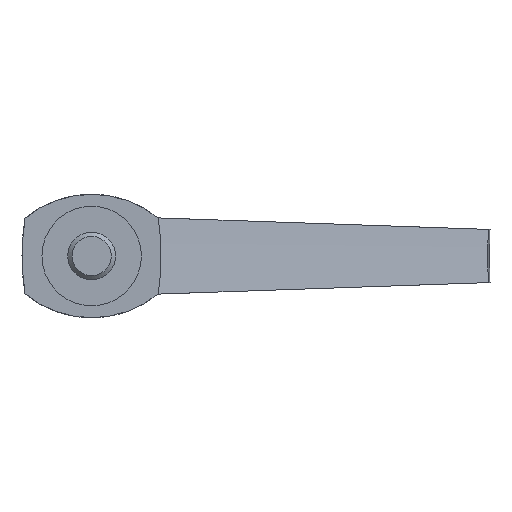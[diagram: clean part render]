
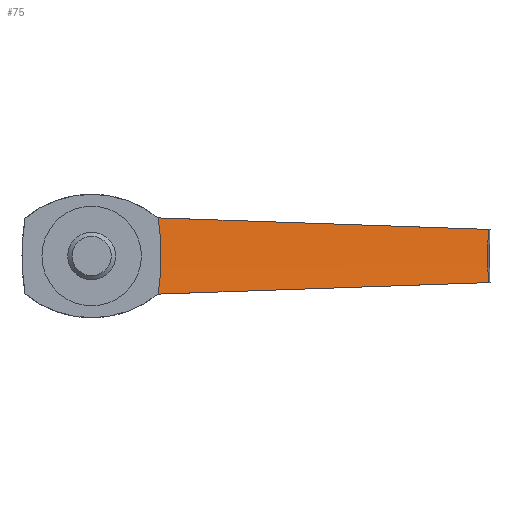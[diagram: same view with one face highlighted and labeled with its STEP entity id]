
A CAD part, front view. The second image highlights one B-rep face of the part: STEP entity #75.
In plain terms, the highlighted conical face has half-angle 70 degrees and reference radius 290 mm.
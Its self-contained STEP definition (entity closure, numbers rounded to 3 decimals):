
#75 = ADVANCED_FACE( '', ( #100 ), #101, .F. );
#100 = FACE_OUTER_BOUND( '', #156, .T. );
#101 = CONICAL_SURFACE( '', #157, 290., 1.222 );
#156 = EDGE_LOOP( '', ( #212, #213, #214, #215, #216, #217 ) );
#157 = AXIS2_PLACEMENT_3D( '', #218, #219, #220 );
#212 = ORIENTED_EDGE( '', *, *, #384, .F. );
#213 = ORIENTED_EDGE( '', *, *, #385, .T. );
#214 = ORIENTED_EDGE( '', *, *, #386, .T. );
#215 = ORIENTED_EDGE( '', *, *, #387, .F. );
#216 = ORIENTED_EDGE( '', *, *, #388, .F. );
#217 = ORIENTED_EDGE( '', *, *, #389, .F. );
#218 = CARTESIAN_POINT( '', ( 291., 19.358, 0. ) );
#219 = DIRECTION( '', ( 0., -1., 0. ) );
#220 = DIRECTION( '', ( 0., 0., -1. ) );
#384 = EDGE_CURVE( '', #434, #435, #436, .T. );
#385 = EDGE_CURVE( '', #434, #437, #438, .T. );
#386 = EDGE_CURVE( '', #437, #439, #440, .T. );
#387 = EDGE_CURVE( '', #441, #439, #442, .T. );
#388 = EDGE_CURVE( '', #443, #441, #444, .T. );
#389 = EDGE_CURVE( '', #435, #443, #445, .T. );
#434 = VERTEX_POINT( '', #520 );
#435 = VERTEX_POINT( '', #521 );
#436 = B_SPLINE_CURVE_WITH_KNOTS( '', 3, ( #522, #523, #524, #525 ), .UNSPECIFIED., .F., .F., ( 4, 4 ), ( 0.001, 0.001 ), .UNSPECIFIED. );
#437 = VERTEX_POINT( '', #526 );
#438 = LINE( '', #527, #528 );
#439 = VERTEX_POINT( '', #529 );
#440 = CIRCLE( '', #530, 191.442 );
#441 = VERTEX_POINT( '', #531 );
#442 = LINE( '', #532, #533 );
#443 = VERTEX_POINT( '', #534 );
#444 = B_SPLINE_CURVE_WITH_KNOTS( '', 3, ( #535, #536, #537, #538 ), .UNSPECIFIED., .F., .F., ( 4, 4 ), ( 0., 0. ), .UNSPECIFIED. );
#445 = B_SPLINE_CURVE_WITH_KNOTS( '', 3, ( #539, #540, #541, #542, #543 ), .UNSPECIFIED., .F., .F., ( 4, 1, 4 ), ( 0., 0.01, 0.019 ), .UNSPECIFIED. );
#520 = CARTESIAN_POINT( '', ( 16.661, 24.998, -9.58 ) );
#521 = CARTESIAN_POINT( '', ( 16.759, 25.034, -9.5 ) );
#522 = CARTESIAN_POINT( '', ( 16.661, 24.998, -9.58 ) );
#523 = CARTESIAN_POINT( '', ( 16.694, 25.01, -9.553 ) );
#524 = CARTESIAN_POINT( '', ( 16.727, 25.022, -9.527 ) );
#525 = CARTESIAN_POINT( '', ( 16.759, 25.034, -9.5 ) );
#526 = CARTESIAN_POINT( '', ( 99.675, 55.231, -6.681 ) );
#527 = CARTESIAN_POINT( '', ( 1.177, 19.358, -10.121 ) );
#528 = VECTOR( '', #643, 1000. );
#529 = CARTESIAN_POINT( '', ( 99.675, 55.231, 6.681 ) );
#530 = AXIS2_PLACEMENT_3D( '', #644, #645, #646 );
#531 = CARTESIAN_POINT( '', ( 16.661, 24.998, 9.58 ) );
#532 = CARTESIAN_POINT( '', ( 1.177, 19.358, 10.121 ) );
#533 = VECTOR( '', #647, 1000. );
#534 = CARTESIAN_POINT( '', ( 16.759, 25.034, 9.5 ) );
#535 = CARTESIAN_POINT( '', ( 16.759, 25.034, 9.5 ) );
#536 = CARTESIAN_POINT( '', ( 16.727, 25.022, 9.527 ) );
#537 = CARTESIAN_POINT( '', ( 16.694, 25.01, 9.553 ) );
#538 = CARTESIAN_POINT( '', ( 16.661, 24.998, 9.58 ) );
#539 = CARTESIAN_POINT( '', ( 16.759, 25.034, -9.5 ) );
#540 = CARTESIAN_POINT( '', ( 17.259, 25.256, -6.333 ) );
#541 = CARTESIAN_POINT( '', ( 17.75, 25.475, 0. ) );
#542 = CARTESIAN_POINT( '', ( 17.259, 25.256, 6.333 ) );
#543 = CARTESIAN_POINT( '', ( 16.759, 25.034, 9.5 ) );
#643 = DIRECTION( '', ( 0.939, 0.342, 0.033 ) );
#644 = CARTESIAN_POINT( '', ( 291., 55.231, 0. ) );
#645 = DIRECTION( '', ( 0., 1., 0. ) );
#646 = DIRECTION( '', ( 0., 0., 1. ) );
#647 = DIRECTION( '', ( 0.939, 0.342, -0.033 ) );
